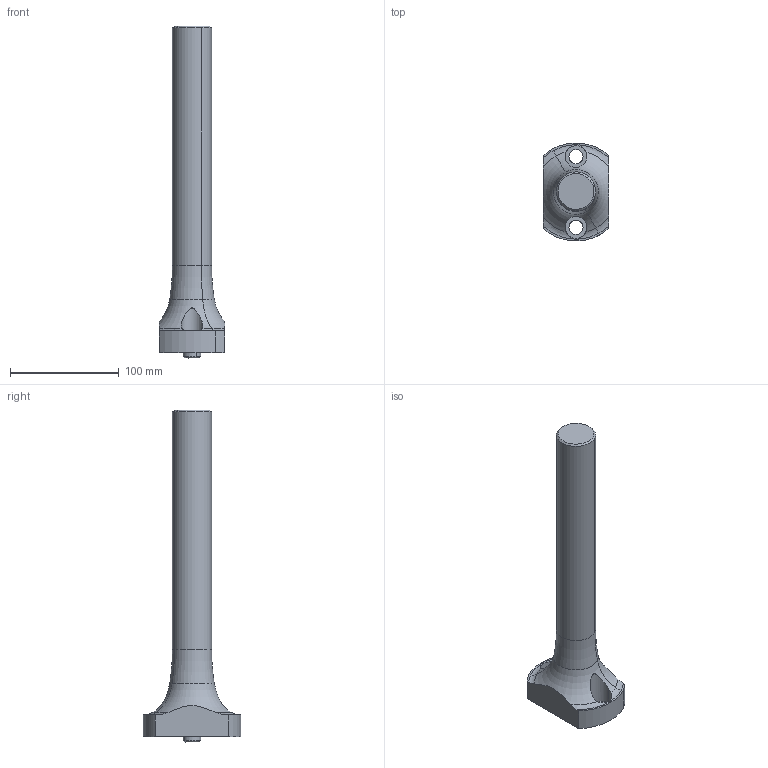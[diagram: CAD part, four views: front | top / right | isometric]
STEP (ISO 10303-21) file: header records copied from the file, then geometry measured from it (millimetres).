
FILE_DESCRIPTION(('CATIA V5 STEP Exchange'),'2;1');
FILE_NAME('C:\Users\Utente\Desktop\IO LAVORO\3D X SITO CF\ULTIMI CATALOGO VERDE\3D files 722\722-00+300.stp','2020-11-14T10:01:41+00:00',('none'),('none'),'CATIA Version 5 Release 20 GA (IN-10)','CATIA V5 STEP AP203','none');
FILE_SCHEMA(('CONFIG_CONTROL_DESIGN'));
Length unit declared in the file: millimetre
Products named in the file (1): 722-00+300
Bounding box: 60 x 89.93 x 305 mm (x, y, z)
Volume: 412728.6 mm3; surface area: 48866.3 mm2
Topology: 1 solids, 1 shells, 38 faces, 101 edges, 66 vertices
Faces by surface type: cylinder 16, plane 9, torus 8, cone 5
Entity records: 1481 total; most frequent: CARTESIAN_POINT 552, ORIENTED_EDGE 202, DIRECTION 143, EDGE_CURVE 101, AXIS2_PLACEMENT_3D 79, VERTEX_POINT 66, CIRCLE 46, EDGE_LOOP 43
